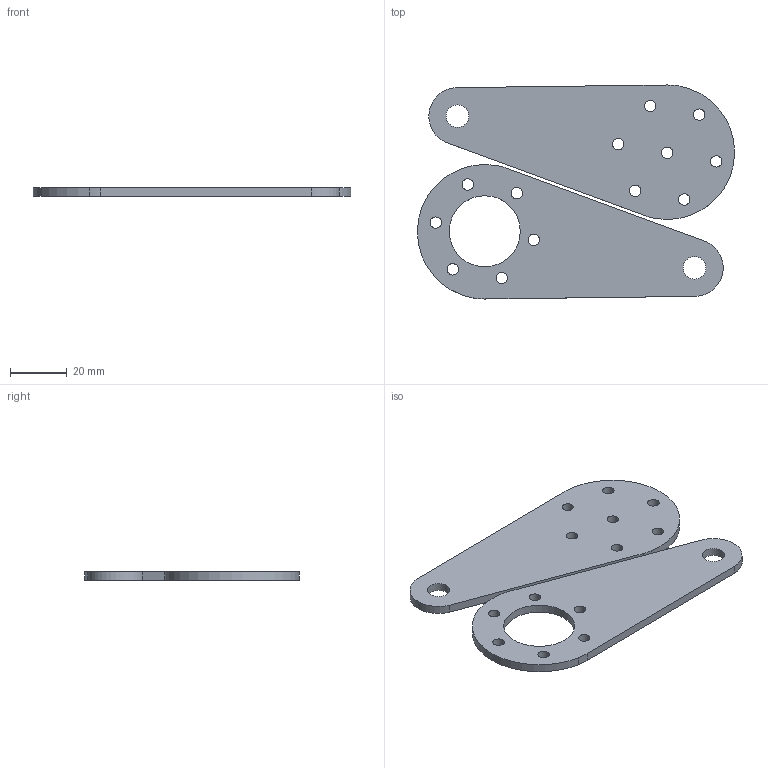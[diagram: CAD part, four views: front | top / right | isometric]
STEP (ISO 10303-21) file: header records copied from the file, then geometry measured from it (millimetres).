
FILE_DESCRIPTION(('HOOPS Exchange Step'),'2;1');
FILE_NAME('C:\Users\lindbee1\AppData\Local\Packages\Shapr3D.Shapr3D_j403pzjkqtqbj\TempState\export\temp_export','2023-09-07T14:26:26+03:00',('lindbee1'),('Shapr3D Limited'),'HOOPS Exchange 2023.2','Shapr3D','Authorized');
FILE_SCHEMA( ('AUTOMOTIVE_DESIGN { 1 0 10303 214 1 1 1 1 }') );
Length unit declared in the file: millimetre
Products named in the file (1): root
Bounding box: 111.67 x 75.35 x 3 mm (x, y, z)
Volume: 19405.6 mm3; surface area: 15364.6 mm2
Topology: 2 solids, 2 shells, 34 faces, 90 edges, 60 vertices
Faces by surface type: cylinder 26, plane 8
Full cylindrical faces by diameter (mm): 4 x13, 8 x2, 25 x1
Entity records: 1173 total; most frequent: DIRECTION 212, CARTESIAN_POINT 185, ORIENTED_EDGE 180, EDGE_CURVE 90, AXIS2_PLACEMENT_3D 87, EDGE_LOOP 66, FACE_BOUND 66, VERTEX_POINT 60
